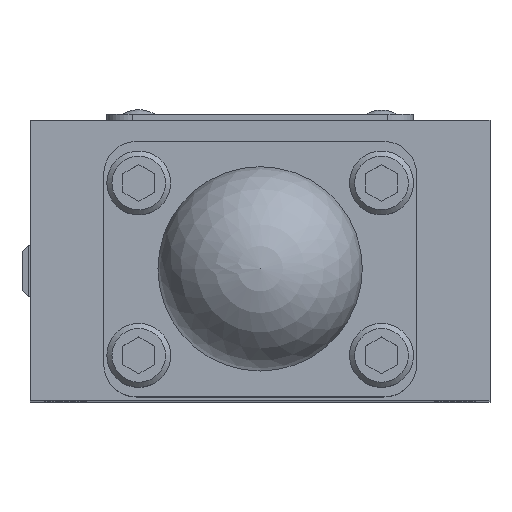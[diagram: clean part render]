
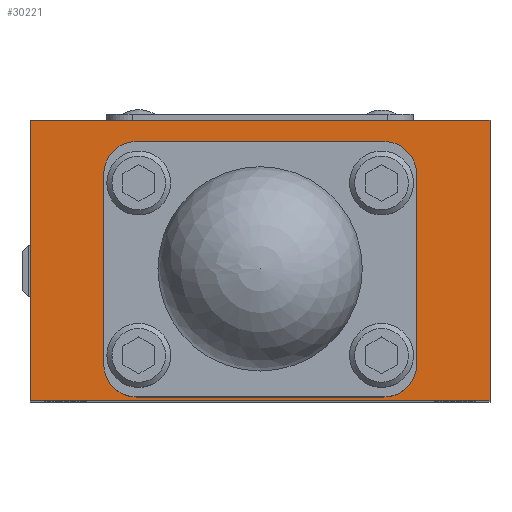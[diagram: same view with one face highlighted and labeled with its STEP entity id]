
A CAD part, top view. The second image highlights one B-rep face of the part: STEP entity #30221.
In plain terms, the highlighted planar face has unit normal (0, 0, 1).
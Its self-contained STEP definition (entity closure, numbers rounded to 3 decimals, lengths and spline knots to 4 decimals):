
#1288=FACE_BOUND('',#5377,.T.);
#2013=PLANE('',#33114);
#3542=FACE_OUTER_BOUND('',#5376,.T.);
#5376=EDGE_LOOP('',(#25748,#25749,#25750,#25751));
#5377=EDGE_LOOP('',(#25752,#25753,#25754,#25755,#25756,#25757,#25758,#25759));
#5643=CIRCLE('',#30533,0.4064);
#5645=CIRCLE('',#30537,0.4064);
#5647=CIRCLE('',#30541,0.4064);
#5649=CIRCLE('',#30545,0.4064);
#7137=LINE('',#41871,#9295);
#7142=LINE('',#41885,#9300);
#7146=LINE('',#41897,#9304);
#7150=LINE('',#41909,#9308);
#8568=LINE('',#50569,#10726);
#8643=LINE('',#51547,#10801);
#8885=LINE('',#52962,#11043);
#9094=LINE('',#54063,#11252);
#9295=VECTOR('',#33663,1.);
#9300=VECTOR('',#33676,1.);
#9304=VECTOR('',#33688,1.);
#9308=VECTOR('',#33700,1.);
#10726=VECTOR('',#39522,1.);
#10801=VECTOR('',#40003,1.);
#11043=VECTOR('',#40391,1.);
#11252=VECTOR('',#40786,1.);
#11452=VERTEX_POINT('',#41869);
#11453=VERTEX_POINT('',#41870);
#11456=VERTEX_POINT('',#41878);
#11458=VERTEX_POINT('',#41884);
#11460=VERTEX_POINT('',#41890);
#11462=VERTEX_POINT('',#41896);
#11464=VERTEX_POINT('',#41902);
#11466=VERTEX_POINT('',#41908);
#13218=VERTEX_POINT('',#50563);
#13220=VERTEX_POINT('',#50567);
#13367=VERTEX_POINT('',#51545);
#13587=VERTEX_POINT('',#52958);
#14144=EDGE_CURVE('',#11452,#11453,#7137,.T.);
#14148=EDGE_CURVE('',#11456,#11452,#5643,.T.);
#14151=EDGE_CURVE('',#11458,#11456,#7142,.T.);
#14154=EDGE_CURVE('',#11460,#11458,#5645,.T.);
#14157=EDGE_CURVE('',#11462,#11460,#7146,.T.);
#14160=EDGE_CURVE('',#11464,#11462,#5647,.T.);
#14163=EDGE_CURVE('',#11466,#11464,#7150,.T.);
#14166=EDGE_CURVE('',#11453,#11466,#5649,.T.);
#16975=EDGE_CURVE('',#13218,#13220,#8568,.T.);
#17204=EDGE_CURVE('',#13220,#13367,#8643,.T.);
#17538=EDGE_CURVE('',#13218,#13587,#8885,.T.);
#17820=EDGE_CURVE('',#13367,#13587,#9094,.T.);
#25748=ORIENTED_EDGE('',*,*,#17820,.T.);
#25749=ORIENTED_EDGE('',*,*,#17538,.F.);
#25750=ORIENTED_EDGE('',*,*,#16975,.T.);
#25751=ORIENTED_EDGE('',*,*,#17204,.T.);
#25752=ORIENTED_EDGE('',*,*,#14166,.F.);
#25753=ORIENTED_EDGE('',*,*,#14144,.F.);
#25754=ORIENTED_EDGE('',*,*,#14148,.F.);
#25755=ORIENTED_EDGE('',*,*,#14151,.F.);
#25756=ORIENTED_EDGE('',*,*,#14154,.F.);
#25757=ORIENTED_EDGE('',*,*,#14157,.F.);
#25758=ORIENTED_EDGE('',*,*,#14160,.F.);
#25759=ORIENTED_EDGE('',*,*,#14163,.F.);
#30221=ADVANCED_FACE('',(#3542,#1288),#2013,.T.);
#30533=AXIS2_PLACEMENT_3D('',#41879,#33669,#33670);
#30537=AXIS2_PLACEMENT_3D('',#41891,#33681,#33682);
#30541=AXIS2_PLACEMENT_3D('',#41903,#33693,#33694);
#30545=AXIS2_PLACEMENT_3D('',#41914,#33705,#33706);
#33114=AXIS2_PLACEMENT_3D('',#54062,#40784,#40785);
#33663=DIRECTION('',(-1.,0.,0.));
#33669=DIRECTION('center_axis',(0.,0.,
1.));
#33670=DIRECTION('ref_axis',(0.,-1.,0.));
#33676=DIRECTION('',(0.,1.,0.));
#33681=DIRECTION('center_axis',(0.,0.,
1.));
#33682=DIRECTION('ref_axis',(-1.,0.,0.));
#33688=DIRECTION('',(1.,0.,0.));
#33693=DIRECTION('center_axis',(0.,0.,
1.));
#33694=DIRECTION('ref_axis',(0.,1.,0.));
#33700=DIRECTION('',(0.,-1.,0.));
#33705=DIRECTION('center_axis',(0.,0.,
1.));
#33706=DIRECTION('ref_axis',(1.,0.,0.));
#39522=DIRECTION('',(1.,0.,0.));
#40003=DIRECTION('',(0.,1.,0.));
#40391=DIRECTION('',(0.,1.,0.));
#40784=DIRECTION('center_axis',(0.,0.,1.));
#40785=DIRECTION('ref_axis',(1.,0.,0.));
#40786=DIRECTION('',(-1.,0.,0.));
#41869=CARTESIAN_POINT('',(1.538,1.5875,4.7104));
#41870=CARTESIAN_POINT('',(-1.538,1.5875,4.7104));
#41871=CARTESIAN_POINT('',(1.538,1.5875,4.7104));
#41878=CARTESIAN_POINT('',(1.9444,1.1811,4.7104));
#41879=CARTESIAN_POINT('Origin',(1.538,1.1811,4.7104));
#41884=CARTESIAN_POINT('',(1.9444,-1.1811,4.7104));
#41885=CARTESIAN_POINT('',(1.9444,-1.1811,4.7104));
#41890=CARTESIAN_POINT('',(1.538,-1.5875,4.7104));
#41891=CARTESIAN_POINT('Origin',(1.538,-1.1811,4.7104));
#41896=CARTESIAN_POINT('',(-1.538,-1.5875,4.7104));
#41897=CARTESIAN_POINT('',(-1.538,-1.5875,4.7104));
#41902=CARTESIAN_POINT('',(-1.9444,-1.1811,4.7104));
#41903=CARTESIAN_POINT('Origin',(-1.538,-1.1811,4.7104));
#41908=CARTESIAN_POINT('',(-1.9444,1.1811,4.7104));
#41909=CARTESIAN_POINT('',(-1.9444,1.1811,4.7104));
#41914=CARTESIAN_POINT('Origin',(-1.538,1.1811,4.7104));
#50563=CARTESIAN_POINT('',(-2.8575,-1.6358,4.7104));
#50567=CARTESIAN_POINT('',(2.8575,-1.6358,4.7104));
#50569=CARTESIAN_POINT('',(-2.8575,-1.6358,4.7104));
#51545=CARTESIAN_POINT('',(2.8575,1.8567,4.7104));
#51547=CARTESIAN_POINT('',(2.8575,0.,4.7104));
#52958=CARTESIAN_POINT('',(-2.8575,1.8567,4.7104));
#52962=CARTESIAN_POINT('',(-2.8575,0.,4.7104));
#54062=CARTESIAN_POINT('Origin',(2.8575,0.,4.7104));
#54063=CARTESIAN_POINT('',(-2.8575,1.8567,4.7104));
